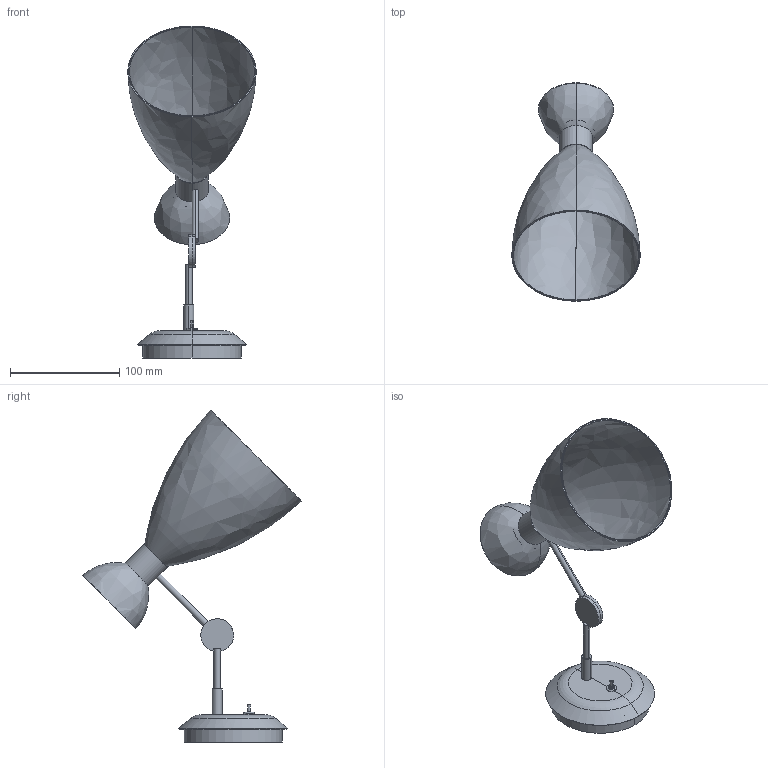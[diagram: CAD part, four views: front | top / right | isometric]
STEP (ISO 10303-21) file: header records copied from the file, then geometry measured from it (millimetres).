
FILE_DESCRIPTION(/* description */ (''),/* implementation_level */ '2;1');
FILE_NAME(/* name */ 'C:\Users\FrancoSartori\Documents\FARO\01_En Proceso\1_RETRO\03_Publicación\20045.stp',/* time_stamp */ '2021-07-12T09:53:22+02:00',/* author */ ('FrancoSartori'),/* organization */ (''),/* preprocessor_version */ 'ST-DEVELOPER v18.1',/* originating_system */ 'AutoCAD Mechanical',/* authorisation */ '');
FILE_SCHEMA (('AUTOMOTIVE_DESIGN { 1 0 10303 214 3 1 1 }'));
Length unit declared in the file: millimetre
Products named in the file (2): Product; 20045_ 20049 _L - LAMP-533570-_3D_
Assembly tree (1 placements, depth 2):
  Product
    20045_ 20049 _L - LAMP-533570-_3D_
Bounding box: 118 x 200.46 x 304.38 mm (x, y, z)
Volume: 172227.7 mm3; surface area: 224321.8 mm2
Topology: 7 solids, 8 shells, 108 faces, 211 edges, 116 vertices
Faces by surface type: plane 42, cylinder 34, bspline 16, cone 8, torus 8
Entity records: 3742 total; most frequent: CARTESIAN_POINT 1572, DIRECTION 453, ORIENTED_EDGE 420, EDGE_CURVE 211, AXIS2_PLACEMENT_3D 191, VERTEX_POINT 116, FACE_OUTER_BOUND 108, EDGE_LOOP 108
